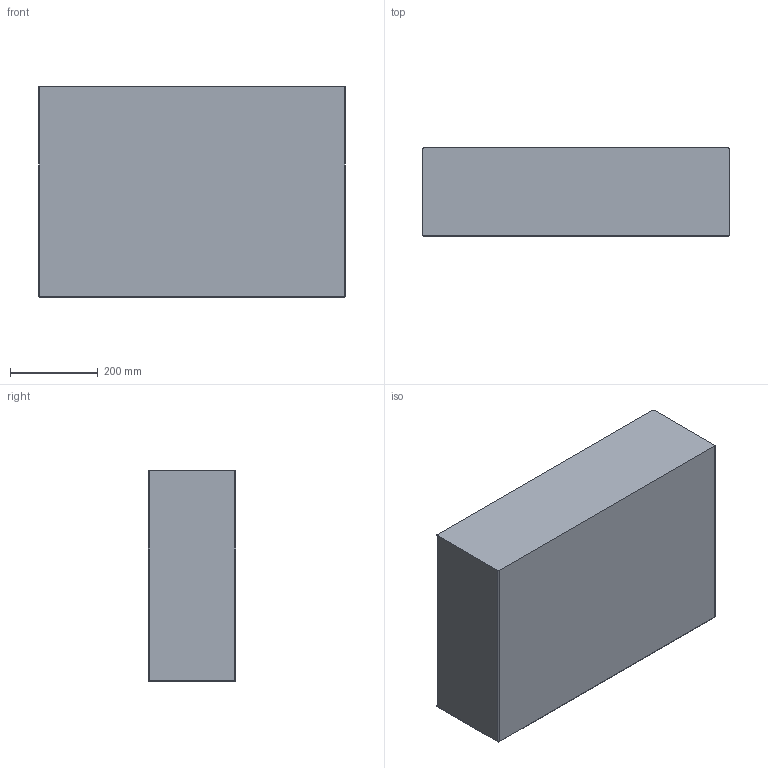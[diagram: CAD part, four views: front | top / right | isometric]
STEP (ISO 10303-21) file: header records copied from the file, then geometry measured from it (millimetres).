
FILE_DESCRIPTION(('CATIA V5 STEP Exchange'),'2;1');
FILE_NAME('C:\Users\Luca\Downloads\mobili next\7525\3D_7525.stp','2023-01-31T14:17:37+00:00',('none'),('none'),'CATIA Version 5 Release 19 SP 5 (IN-10)','CATIA V5 STEP AP214','none');
FILE_SCHEMA(('AUTOMOTIVE_DESIGN { 1 0 10303 214 1 1 1 1 }'));
Length unit declared in the file: millimetre
Products named in the file (1): ART. 7525
Bounding box: 700 x 200 x 480 mm (x, y, z)
Volume: 17546357.7 mm3; surface area: 1882329.4 mm2
Topology: 1 solids, 1 shells, 73 faces, 164 edges, 86 vertices
Faces by surface type: cylinder 28, bspline 20, plane 15, sphere 8, torus 2
Entity records: 3211 total; most frequent: CARTESIAN_POINT 1817, ORIENTED_EDGE 312, DIRECTION 207, EDGE_CURVE 156, AXIS2_PLACEMENT_3D 98, VERTEX_POINT 86, EDGE_LOOP 74, ADVANCED_FACE 73
